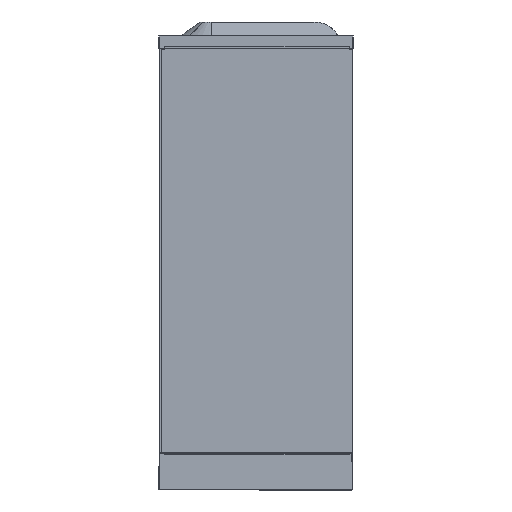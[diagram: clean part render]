
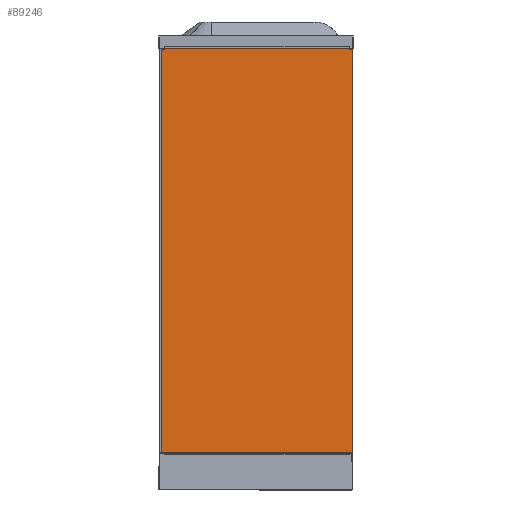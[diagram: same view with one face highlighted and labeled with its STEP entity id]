
A CAD part, left-side view. The second image highlights one B-rep face of the part: STEP entity #89246.
In plain terms, the highlighted free-form (B-spline) face has degree [1, 1] with [2, 2] control points.
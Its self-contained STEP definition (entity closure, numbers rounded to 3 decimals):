
#42948=CARTESIAN_POINT('',(3.567,-885.978,2050.06));
#42949=VERTEX_POINT('',#42948);
#42956=CARTESIAN_POINT('',(3.567,-899.978,2050.06));
#42957=VERTEX_POINT('',#42956);
#42958=CARTESIAN_POINT('',(3.567,-885.978,2050.06));
#42959=DIRECTION('',(0.,-1.,0.0));
#42960=VECTOR('',#42959,14.);
#42961=LINE('',#42958,#42960);
#42962=EDGE_CURVE('',#42949,#42957,#42961,.T.);
#43051=CARTESIAN_POINT('',(3.563,-25.974,2050.06));
#43052=VERTEX_POINT('',#43051);
#43059=CARTESIAN_POINT('',(3.563,-25.974,2063.06));
#43060=VERTEX_POINT('',#43059);
#43061=CARTESIAN_POINT('',(3.563,-25.974,2050.06));
#43062=DIRECTION('',(0.0,0.0,1.0));
#43063=VECTOR('',#43062,13.0);
#43064=LINE('',#43061,#43063);
#43065=EDGE_CURVE('',#43052,#43060,#43064,.T.);
#43081=CARTESIAN_POINT('',(3.567,-885.978,2063.06));
#43082=VERTEX_POINT('',#43081);
#43089=CARTESIAN_POINT('',(3.567,-885.978,2063.06));
#43090=DIRECTION('',(0.0,0.0,-1.0));
#43091=VECTOR('',#43090,13.0);
#43092=LINE('',#43089,#43091);
#43093=EDGE_CURVE('',#43082,#42949,#43092,.T.);
#43107=CARTESIAN_POINT('',(3.563,-11.974,2050.06));
#43108=VERTEX_POINT('',#43107);
#43115=CARTESIAN_POINT('',(3.563,-11.974,2050.06));
#43116=DIRECTION('',(0.,-1.,0.0));
#43117=VECTOR('',#43116,14.);
#43118=LINE('',#43115,#43117);
#43119=EDGE_CURVE('',#43108,#43052,#43118,.T.);
#88997=CARTESIAN_POINT('',(3.567,-885.978,2063.06));
#88998=DIRECTION('',(0.,1.,0.0));
#88999=VECTOR('',#88998,860.004);
#89000=LINE('',#88997,#88999);
#89001=EDGE_CURVE('',#43082,#43060,#89000,.T.);
#89062=CARTESIAN_POINT('',(3.563,-25.974,163.06));
#89063=VERTEX_POINT('',#89062);
#89064=CARTESIAN_POINT('',(3.567,-885.977,163.06));
#89065=VERTEX_POINT('',#89064);
#89066=CARTESIAN_POINT('',(3.563,-25.974,163.06));
#89067=DIRECTION('',(0.,-1.,0.0));
#89068=VECTOR('',#89067,860.004);
#89069=LINE('',#89066,#89068);
#89070=EDGE_CURVE('',#89063,#89065,#89069,.T.);
#89103=CARTESIAN_POINT('',(3.563,-11.977,176.06));
#89104=VERTEX_POINT('',#89103);
#89111=CARTESIAN_POINT('',(3.563,-11.977,2050.06));
#89112=DIRECTION('',(0.0,0.0,-1.0));
#89113=VECTOR('',#89112,1874.);
#89114=LINE('',#89111,#89113);
#89115=EDGE_CURVE('',#43108,#89104,#89114,.T.);
#89127=CARTESIAN_POINT('',(3.563,-25.974,176.06));
#89128=VERTEX_POINT('',#89127);
#89129=CARTESIAN_POINT('',(3.563,-25.974,163.06));
#89130=DIRECTION('',(0.0,0.0,1.0));
#89131=VECTOR('',#89130,13.0);
#89132=LINE('',#89129,#89131);
#89133=EDGE_CURVE('',#89063,#89128,#89132,.T.);
#89152=CARTESIAN_POINT('',(3.563,-25.974,176.06));
#89153=DIRECTION('',(0.,1.,0.0));
#89154=VECTOR('',#89153,14.);
#89155=LINE('',#89152,#89154);
#89156=EDGE_CURVE('',#89128,#89104,#89155,.T.);
#89167=CARTESIAN_POINT('',(3.567,-899.977,176.06));
#89168=VERTEX_POINT('',#89167);
#89177=CARTESIAN_POINT('',(3.567,-899.977,176.06));
#89178=DIRECTION('',(0.0,0.0,1.0));
#89179=VECTOR('',#89178,1874.);
#89180=LINE('',#89177,#89179);
#89181=EDGE_CURVE('',#89168,#42957,#89180,.T.);
#89193=CARTESIAN_POINT('',(3.567,-885.977,176.06));
#89194=VERTEX_POINT('',#89193);
#89201=CARTESIAN_POINT('',(3.567,-885.977,163.06));
#89202=DIRECTION('',(0.0,0.0,1.0));
#89203=VECTOR('',#89202,13.);
#89204=LINE('',#89201,#89203);
#89205=EDGE_CURVE('',#89065,#89194,#89204,.T.);
#89217=CARTESIAN_POINT('',(3.567,-885.977,176.06));
#89218=DIRECTION('',(0.,-1.,0.));
#89219=VECTOR('',#89218,14.);
#89220=LINE('',#89217,#89219);
#89221=EDGE_CURVE('',#89194,#89168,#89220,.T.);
#89227=CARTESIAN_POINT('',(3.563,-11.565,2063.472));
#89228=CARTESIAN_POINT('',(3.563,-11.565,162.647));
#89229=CARTESIAN_POINT('',(3.567,-900.39,2063.472));
#89230=CARTESIAN_POINT('',(3.567,-900.39,162.647));
#89231=B_SPLINE_SURFACE_WITH_KNOTS('',1,1,((#89227,#89229),(#89228,#89230)),.UNSPECIFIED.,.F.,.F.,.U.,(2,2),(2,2),(3.663,1904.488),(13.058,901.884),.UNSPECIFIED.);
#89232=ORIENTED_EDGE('',*,*,#89070,.T.);
#89233=ORIENTED_EDGE('',*,*,#89205,.T.);
#89234=ORIENTED_EDGE('',*,*,#89221,.T.);
#89235=ORIENTED_EDGE('',*,*,#89181,.T.);
#89236=ORIENTED_EDGE('',*,*,#42962,.F.);
#89237=ORIENTED_EDGE('',*,*,#43093,.F.);
#89238=ORIENTED_EDGE('',*,*,#89001,.T.);
#89239=ORIENTED_EDGE('',*,*,#43065,.F.);
#89240=ORIENTED_EDGE('',*,*,#43119,.F.);
#89241=ORIENTED_EDGE('',*,*,#89115,.T.);
#89242=ORIENTED_EDGE('',*,*,#89156,.F.);
#89243=ORIENTED_EDGE('',*,*,#89133,.F.);
#89244=EDGE_LOOP('',(#89232,#89233,#89234,#89235,#89236,#89237,#89238,#89239,#89240,#89241,#89242,#89243));
#89245=FACE_OUTER_BOUND('',#89244,.T.);
#89246=ADVANCED_FACE('',(#89245),#89231,.T.);
